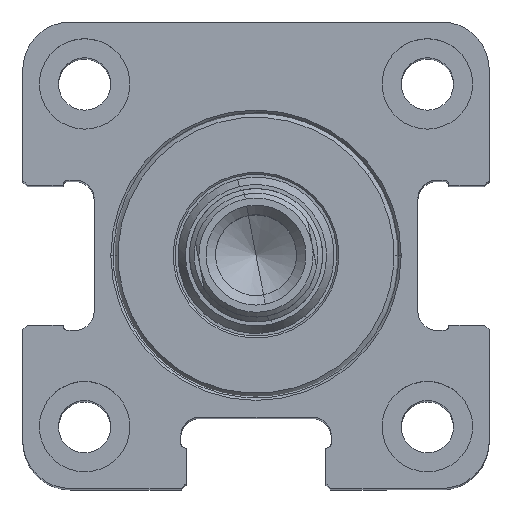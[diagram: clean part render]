
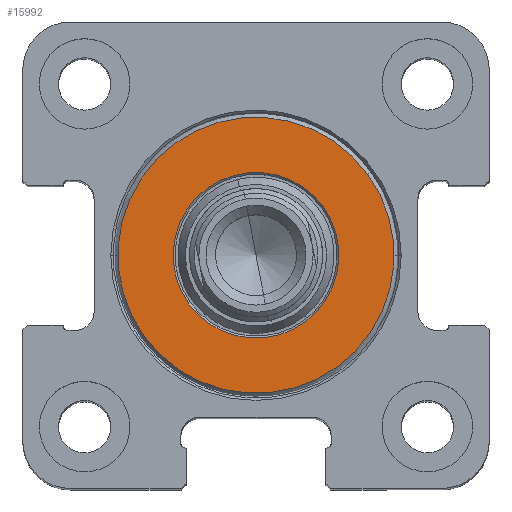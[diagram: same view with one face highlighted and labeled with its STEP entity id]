
A CAD part, top view. The second image highlights one B-rep face of the part: STEP entity #15992.
In plain terms, the highlighted planar face has unit normal (0, 0, 1) as drawn and (-1, 0, 0) by its records, which use the part's own axes.
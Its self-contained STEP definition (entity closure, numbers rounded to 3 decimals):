
#904 = DIRECTION ( 'NONE',  ( 1., 0., 0. ) ) ;
#939 = ORIENTED_EDGE ( 'NONE', *, *, #7533, .T. ) ;
#1073 = ORIENTED_EDGE ( 'NONE', *, *, #14919, .T. ) ;
#1136 = ORIENTED_EDGE ( 'NONE', *, *, #6158, .T. ) ;
#1419 = CARTESIAN_POINT ( 'NONE',  ( 0., 0., 14.5 ) ) ;
#1971 = VERTEX_POINT ( 'NONE', #6667 ) ;
#1977 = DIRECTION ( 'NONE',  ( 1., 0., 0. ) ) ;
#2367 = DIRECTION ( 'NONE',  ( 0., 0., -1. ) ) ;
#2455 = CIRCLE ( 'NONE', #7298, 14.5 ) ;
#2906 = CARTESIAN_POINT ( 'NONE',  ( 0., 0., -14.5 ) ) ;
#3222 = VERTEX_POINT ( 'NONE', #13417 ) ;
#3387 = CIRCLE ( 'NONE', #11970, 8.7 ) ;
#3782 = CARTESIAN_POINT ( 'NONE',  ( 0., 0., 0. ) ) ;
#4880 = DIRECTION ( 'NONE',  ( -1., 0., 0. ) ) ;
#5758 = CARTESIAN_POINT ( 'NONE',  ( 0., 7., 0. ) ) ;
#6158 = EDGE_CURVE ( 'NONE', #7080, #15199, #6205, .T. ) ;
#6205 = CIRCLE ( 'NONE', #8871, 14.5 ) ;
#6588 = EDGE_CURVE ( 'NONE', #15199, #7080, #2455, .T. ) ;
#6667 = CARTESIAN_POINT ( 'NONE',  ( 0., 0., 8.7 ) ) ;
#7080 = VERTEX_POINT ( 'NONE', #1419 ) ;
#7298 = AXIS2_PLACEMENT_3D ( 'NONE', #9680, #8911, #2367 ) ;
#7533 = EDGE_CURVE ( 'NONE', #1971, #3222, #10465, .T. ) ;
#7993 = EDGE_LOOP ( 'NONE', ( #13557, #1136 ) ) ;
#8871 = AXIS2_PLACEMENT_3D ( 'NONE', #3782, #4880, #11592 ) ;
#8911 = DIRECTION ( 'NONE',  ( -1., 0., 0. ) ) ;
#9680 = CARTESIAN_POINT ( 'NONE',  ( 0., 0., 0. ) ) ;
#9809 = CARTESIAN_POINT ( 'NONE',  ( 0., 0., 0. ) ) ;
#9858 = PLANE ( 'NONE',  #10334 ) ;
#9926 = DIRECTION ( 'NONE',  ( 0., 0., -1. ) ) ;
#10334 = AXIS2_PLACEMENT_3D ( 'NONE', #5758, #1977, #15889 ) ;
#10465 = CIRCLE ( 'NONE', #14743, 8.7 ) ;
#10522 = DIRECTION ( 'NONE',  ( 1., 0., 0. ) ) ;
#11544 = EDGE_LOOP ( 'NONE', ( #939, #1073 ) ) ;
#11592 = DIRECTION ( 'NONE',  ( 0., 0., -1. ) ) ;
#11970 = AXIS2_PLACEMENT_3D ( 'NONE', #9809, #904, #13744 ) ;
#13417 = CARTESIAN_POINT ( 'NONE',  ( 0., 0., -8.7 ) ) ;
#13557 = ORIENTED_EDGE ( 'NONE', *, *, #6588, .T. ) ;
#13744 = DIRECTION ( 'NONE',  ( 0., 0., -1. ) ) ;
#14716 = FACE_OUTER_BOUND ( 'NONE', #7993, .T. ) ;
#14743 = AXIS2_PLACEMENT_3D ( 'NONE', #15629, #10522, #9926 ) ;
#14919 = EDGE_CURVE ( 'NONE', #3222, #1971, #3387, .T. ) ;
#15199 = VERTEX_POINT ( 'NONE', #2906 ) ;
#15629 = CARTESIAN_POINT ( 'NONE',  ( 0., 0., 0. ) ) ;
#15889 = DIRECTION ( 'NONE',  ( 0., 0., -1. ) ) ;
#15992 = ADVANCED_FACE ( 'NONE', ( #16145, #14716 ), #9858, .F. ) ;
#16145 = FACE_BOUND ( 'NONE', #11544, .T. ) ;
